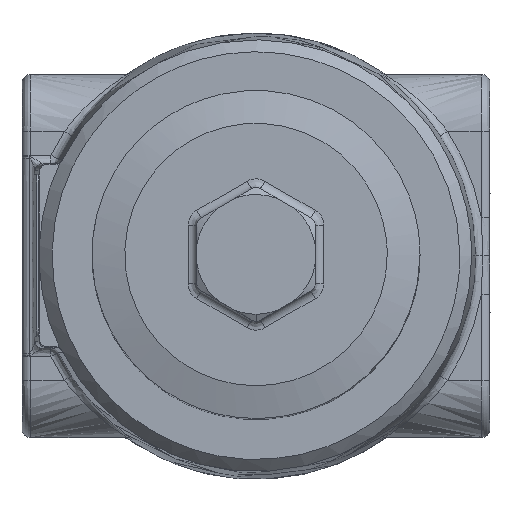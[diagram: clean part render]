
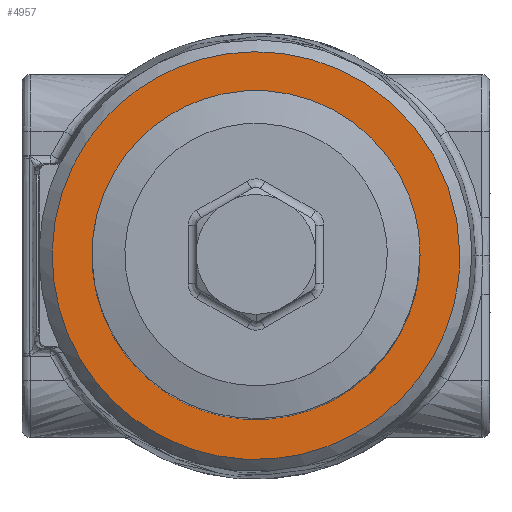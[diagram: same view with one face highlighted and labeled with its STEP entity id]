
A CAD part, top view. The second image highlights one B-rep face of the part: STEP entity #4957.
In plain terms, the highlighted free-form (B-spline) face has degree [1, 1] with [2, 2] control points.
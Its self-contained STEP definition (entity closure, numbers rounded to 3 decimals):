
#4899=CARTESIAN_POINT('V539',(29.867,-3.957,
   66.0));
#4900=VERTEX_POINT('V539',#4899);
#4901=CARTESIAN_POINT('E920',(29.867,-3.957,
   66.0));
#4902=CARTESIAN_POINT('E920',(29.867,60.995,
   66.0));
#4903=CARTESIAN_POINT('E920',(-26.383,28.519,
   66.0));
#4904=CARTESIAN_POINT('E920',(-82.633,-3.957,
   66.0));
#4905=CARTESIAN_POINT('E920',(-26.383,
   -36.433,66.0));
#4906=CARTESIAN_POINT('E920',(29.867,-68.909,
   66.0));
#4907=CARTESIAN_POINT('E920',(29.867,-3.957,
   66.0));
#4915=(BOUNDED_CURVE()B_SPLINE_CURVE(2,(#4901,#4902,#4903,#4904,
   #4905,#4906,#4907),.CIRCULAR_ARC.,.T.,.U.)
   B_SPLINE_CURVE_WITH_KNOTS((3,2,2,3),(0.0,0.333,
   0.667,1.0),.UNSPECIFIED.)CURVE()
   GEOMETRIC_REPRESENTATION_ITEM()RATIONAL_B_SPLINE_CURVE((1.0,
   0.5,1.0,0.5,1.0,0.5,1.0)
   )REPRESENTATION_ITEM('E920'));
#4916=EDGE_CURVE('E920',#4900,#4900,#4915,.T.);
#4928=CARTESIAN_POINT('F383',(-58.908,47.318,
   66.0));
#4929=CARTESIAN_POINT('F383',(43.642,47.318,
   66.0));
#4930=CARTESIAN_POINT('F383',(-58.908,
   -55.232,66.0));
#4931=CARTESIAN_POINT('F383',(43.642,-55.232,
   66.0));
#4932=QUASI_UNIFORM_SURFACE('F383',1,1,((#4928,#4930),(#4929,
   #4931)),.PLANE_SURF.,.F.,.F.,.U.);
#4933=CARTESIAN_POINT('V133',(38.98,-3.957,
   66.0));
#4934=VERTEX_POINT('V133',#4933);
#4935=CARTESIAN_POINT('E192',(38.98,-3.957,
   66.0));
#4936=CARTESIAN_POINT('E192',(38.98,76.78,
   66.0));
#4937=CARTESIAN_POINT('E192',(-30.94,36.411,
   66.0));
#4938=CARTESIAN_POINT('E192',(-100.86,
   -3.957,66.0));
#4939=CARTESIAN_POINT('E192',(-30.94,
   -44.325,66.0));
#4940=CARTESIAN_POINT('E192',(38.98,-84.694,
   66.0));
#4941=CARTESIAN_POINT('E192',(38.98,-3.957,
   66.0));
#4949=(BOUNDED_CURVE()B_SPLINE_CURVE(2,(#4935,#4936,#4937,#4938,
   #4939,#4940,#4941),.CIRCULAR_ARC.,.T.,.U.)
   B_SPLINE_CURVE_WITH_KNOTS((3,2,2,3),(0.0,39.284,
   78.569,117.853),.UNSPECIFIED.)CURVE()
   GEOMETRIC_REPRESENTATION_ITEM()RATIONAL_B_SPLINE_CURVE((1.0,
   0.5,1.0,0.5,1.0,0.5,1.0)
   )REPRESENTATION_ITEM('E192'));
#4950=EDGE_CURVE('E192',#4934,#4934,#4949,.T.);
#4951=ORIENTED_EDGE('E192',*,*,#4950,.T.);
#4952=EDGE_LOOP('F383',(#4951));
#4953=FACE_OUTER_BOUND('F383',#4952,.T.);
#4954=ORIENTED_EDGE('E920',*,*,#4916,.F.);
#4955=EDGE_LOOP('F383',(#4954));
#4956=FACE_BOUND('F383',#4955,.T.);
#4957=ADVANCED_FACE('F383',(#4953,#4956),#4932,.F.);
